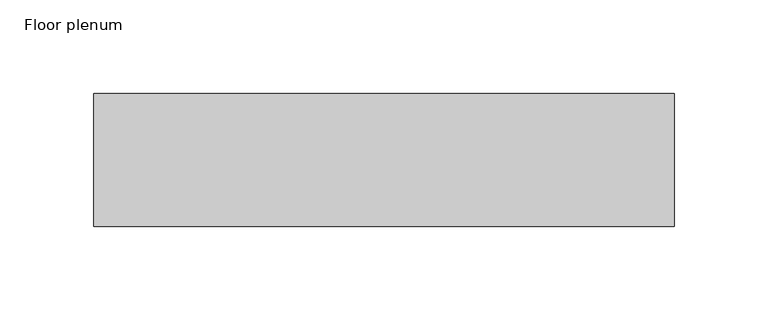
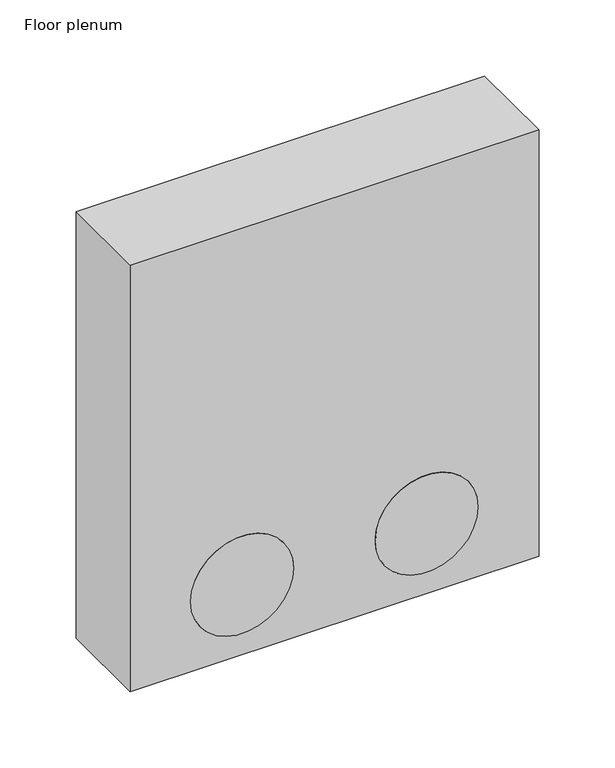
"""IFC4 building model written with IfcOpenShell, lengths in millimetres: air terminal geometry, NLRS_57_AIR_LB_wall_floor mounted plenum with grill_M&G : Floor plenum."""

from ifc_helpers import new_model, si_unit, point, frame, frame_2d, origin, place, context, project, spatial, polyline, circle_curve, trimmed, segment, composite_curve, outline, extrude, source, transform, mapped, element, save
from ifc_brep_helpers import plane_surface, revolved_surface, advanced_brep


def floor_plenum_d3dd77eb(model_context):
    return source(origin(), model_context, "Body", "SolidModel", [
        extrude(outline(composite_curve([segment(trimmed(circle_curve(frame_2d((56.0, -70.0)), 39.0), [point((56.0, -31.0))], [point((56.0, -109.0))], False, "CARTESIAN"), True, "CONTINUOUS"), segment(trimmed(circle_curve(frame_2d((56.0, -70.0)), 39.0), [point((56.0, -109.0))], [point((56.0, -31.0))], False, "CARTESIAN"), True, "CONTINUOUS")], self_intersect=False)), frame((0.0, -35.5, 0.0), z_axis=(0.0, 1.0, 0.0), x_axis=(0.0, 0.0, 1.0)), (0.0, 0.0, 1.0), 5.0),
        extrude(outline(composite_curve([segment(trimmed(circle_curve(frame_2d((56.0, 70.0)), 39.0), [point((56.0, 109.0))], [point((56.0, 31.0))], False, "CARTESIAN"), True, "CONTINUOUS"), segment(trimmed(circle_curve(frame_2d((56.0, 70.0)), 39.0), [point((56.0, 31.0))], [point((56.0, 109.0))], False, "CARTESIAN"), True, "CONTINUOUS")], self_intersect=False)), frame((0.0, -35.5, 0.0), z_axis=(0.0, 1.0, 0.0), x_axis=(0.0, 0.0, 1.0)), (0.0, 0.0, 1.0), 5.0),
        advanced_brep(
        [(155.0, 35.5, 342.0), (-155.0, 35.5, 342.0), (-155.0, -35.5, 342.0), (155.0, -35.5, 342.0), (155.0, 35.5, 0.0), (155.0, -35.5, 0.0), (-155.0, -35.5, 0.0), (-155.0, 35.5, 0.0), (155.0, 35.5, 248.0), (-155.0, 35.5, 248.0), (-155.0, -35.5, 248.0), (155.0, -35.5, 248.0), (-109.0, -35.5, 56.0), (-31.0, -35.5, 56.0), (31.0, -35.5, 56.0), (109.0, -35.5, 56.0), (-31.0, -30.5, 56.0), (-109.0, -30.5, 56.0), (109.0, -30.5, 56.0), (31.0, -30.5, 56.0)],
        [
            (0, 1),
            (1, 2),
            (2, 3),
            (3, 0),
            (4, 5),
            (5, 6),
            (6, 7),
            (7, 4),
            (0, 8),
            (8, 4),
            (7, 9),
            (9, 1),
            (6, 10),
            (10, 2),
            (5, 11),
            (11, 3),
            (12, 13, circle_curve(frame((-70.0, -35.5, 56.0), z_axis=(0.0, 1.0, 0.0), x_axis=(-1.0, 0.0, 0.0)), 39.0)),
            (13, 12, circle_curve(frame((-70.0, -35.5, 56.0), z_axis=(0.0, 1.0, 0.0), x_axis=(-1.0, 0.0, 0.0)), 39.0)),
            (14, 15, circle_curve(frame((70.0, -35.5, 56.0), z_axis=(0.0, 1.0, 0.0), x_axis=(-1.0, 0.0, 0.0)), 39.0)),
            (15, 14, circle_curve(frame((70.0, -35.5, 56.0), z_axis=(0.0, 1.0, 0.0), x_axis=(-1.0, 0.0, 0.0)), 39.0)),
            (16, 17, circle_curve(frame((-70.0, -30.5, 56.0), z_axis=(0.0, -1.0, 0.0), x_axis=(-1.0, 0.0, 0.0)), 39.0)),
            (17, 16, circle_curve(frame((-70.0, -30.5, 56.0), z_axis=(0.0, -1.0, 0.0), x_axis=(-1.0, 0.0, 0.0)), 39.0)),
            (18, 19, circle_curve(frame((70.0, -30.5, 56.0), z_axis=(0.0, -1.0, 0.0), x_axis=(-1.0, 0.0, 0.0)), 39.0)),
            (19, 18, circle_curve(frame((70.0, -30.5, 56.0), z_axis=(0.0, -1.0, 0.0), x_axis=(-1.0, 0.0, 0.0)), 39.0)),
            (16, 13),
            (12, 17),
            (18, 15),
            (14, 19),
        ],
        [
            plane_surface(frame((-155.0, 35.5, 342.0), z_axis=(0.0, 0.0, 1.0), x_axis=(-1.0, 0.0, 0.0))),
            plane_surface(frame((-155.0, 35.5, 0.0), z_axis=(0.0, 0.0, -1.0), x_axis=(1.0, 0.0, 0.0))),
            plane_surface(frame((155.0, 35.5, 342.0), z_axis=(0.0, 1.0, 0.0), x_axis=(0.0, 0.0, -1.0))),
            plane_surface(frame((-155.0, 35.5, 342.0), z_axis=(-1.0, 0.0, 0.0), x_axis=(0.0, 0.0, -1.0))),
            plane_surface(frame((-155.0, -35.5, 342.0), z_axis=(0.0, -1.0, 0.0), x_axis=(0.0, 0.0, -1.0))),
            plane_surface(frame((155.0, -35.5, 342.0), z_axis=(1.0, 0.0, 0.0), x_axis=(0.0, 0.0, -1.0))),
            plane_surface(frame((-109.0, -30.5, 56.0), z_axis=(0.0, -1.0, 0.0), x_axis=(0.0, 0.0, 1.0))),
            revolved_surface(polyline([(-109.0, -30.5, 56.0), (-109.0, -35.5, 56.0)]), (-70.0, -35.5, 56.0), (0.0, 1.0, 0.0)),
            revolved_surface(polyline([(31.0, -30.5, 56.0), (31.0, -35.5, 56.0)]), (70.0, -35.5, 56.0), (0.0, 1.0, 0.0)),
        ],
        [
            (0, [[1, 2, 3, 4]]),
            (1, [[5, 6, 7, 8]]),
            (2, [[-1, 9, 10, -8, 11, 12]]),
            (3, [[-2, -12, -11, -7, 13, 14]]),
            (4, [[-3, -14, -13, -6, 15, 16], [17, 18], [19, 20]]),
            (5, [[-4, -16, -15, -5, -10, -9]]),
            (6, [[21, 22]]),
            (6, [[23, 24]]),
            (7, [[-21, 25, -17, 26]]),
            (7, [[-22, -26, -18, -25]]),
            (8, [[-23, 27, -19, 28]]),
            (8, [[-24, -28, -20, -27]]),
        ],
    ),
    ])


if __name__ == "__main__":
    model = new_model("IFC4")
    model_context = context("Model", 3, world=origin())
    ifc_project = project(units=[si_unit("LENGTHUNIT", "METRE", prefix="MILLI")], contexts=[model_context])
    site = spatial("IfcSite", under=ifc_project)
    building = spatial("IfcBuilding", under=site)
    placement = place(None, origin())
    floor_plenum_shape = floor_plenum_d3dd77eb(model_context)
    element("IfcAirTerminal", 1, ObjectType="NLRS_57_AIR_LB_wall_floor mounted plenum with grill_M&G : Floor plenum", at=placement, inside=building, context=model_context, shape_type="MappedRepresentation", body=[
        mapped(floor_plenum_shape, transform((0.0, 0.0, 0.0), x_axis=(1.0, 0.0, 0.0), y_axis=(0.0, 1.0, 0.0), z_axis=(0.0, 0.0, 1.0))),
    ])
    save(model, "model.ifc")
